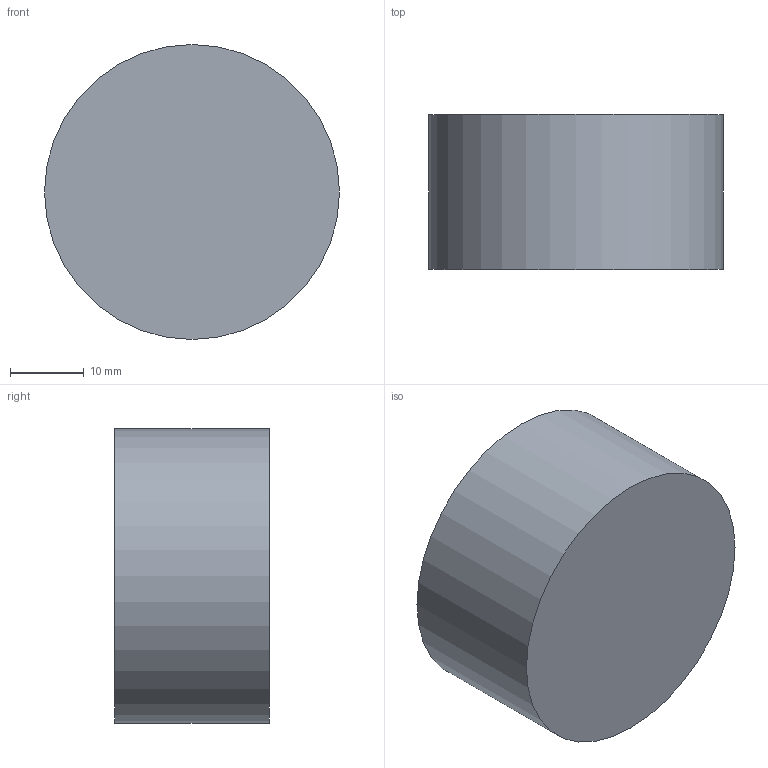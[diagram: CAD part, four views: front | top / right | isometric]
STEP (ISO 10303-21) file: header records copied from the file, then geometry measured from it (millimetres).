
FILE_DESCRIPTION(('Open CASCADE Model'),'2;1');
FILE_NAME('Open CASCADE Shape Model','2026-10-10T15:34:57',('Author'),( 'Open CASCADE'),'Open CASCADE STEP processor 7.9','Open CASCADE 7.9' ,'Unknown');
FILE_SCHEMA(('AUTOMOTIVE_DESIGN { 1 0 10303 214 1 1 1 1 }'));
Length unit declared in the file: millimetre
Products named in the file (1): Open CASCADE STEP translator 7.9 14
Bounding box: 40 x 21 x 40 mm (x, y, z)
Volume: 26389.4 mm3; surface area: 5152.2 mm2
Topology: 1 solids, 1 shells, 3 faces, 3 edges, 2 vertices
Faces by surface type: plane 2, cylinder 1
Full cylindrical faces by diameter (mm): 40 x1
Entity records: 108 total; most frequent: DIRECTION 19, CARTESIAN_POINT 15, AXIS2_PLACEMENT_3D 6, ORIENTED_EDGE 6, PCURVE 6, DEFINITIONAL_REPRESENTATION 6, LINE 5, VECTOR 5
